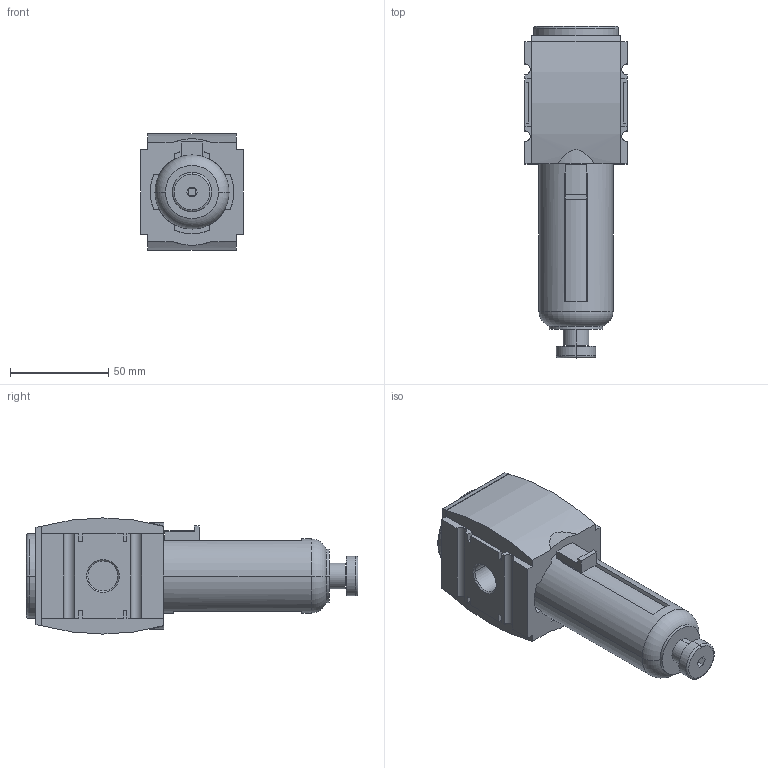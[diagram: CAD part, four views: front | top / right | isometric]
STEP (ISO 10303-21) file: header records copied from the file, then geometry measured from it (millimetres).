
FILE_DESCRIPTION((''),'2;1');
FILE_NAME('R412006045_ASM','2019-08-08T',('hug2hc'),(''),'CREO PARAMETRIC BY PTC INC, 2016260','CREO PARAMETRIC BY PTC INC, 2016260','');
FILE_SCHEMA(('CONFIG_CONTROL_DESIGN'));
Length unit declared in the file: millimetre
Products named in the file (5): R412006045; AS2_RES_FILTER_SEMI; AS2_TOP-COVER; AS2_DRAIN_KNOB_PC; R412006045_ASM
Assembly tree (4 placements, depth 2):
  R412006045_ASM
    R412006045
    AS2_RES_FILTER_SEMI
    AS2_TOP-COVER
    AS2_DRAIN_KNOB_PC
Bounding box: 52 x 168.5 x 59 mm (x, y, z)
Volume: 269063.9 mm3; surface area: 47343 mm2
Topology: 4 solids, 4 shells, 250 faces, 676 edges, 442 vertices
Faces by surface type: plane 145, cylinder 77, cone 20, torus 8
Entity records: 8307 total; most frequent: CARTESIAN_POINT 1520, DIRECTION 1406, ORIENTED_EDGE 1352, EDGE_CURVE 676, AXIS2_PLACEMENT_3D 489, VERTEX_POINT 442, VECTOR 428, LINE 428
